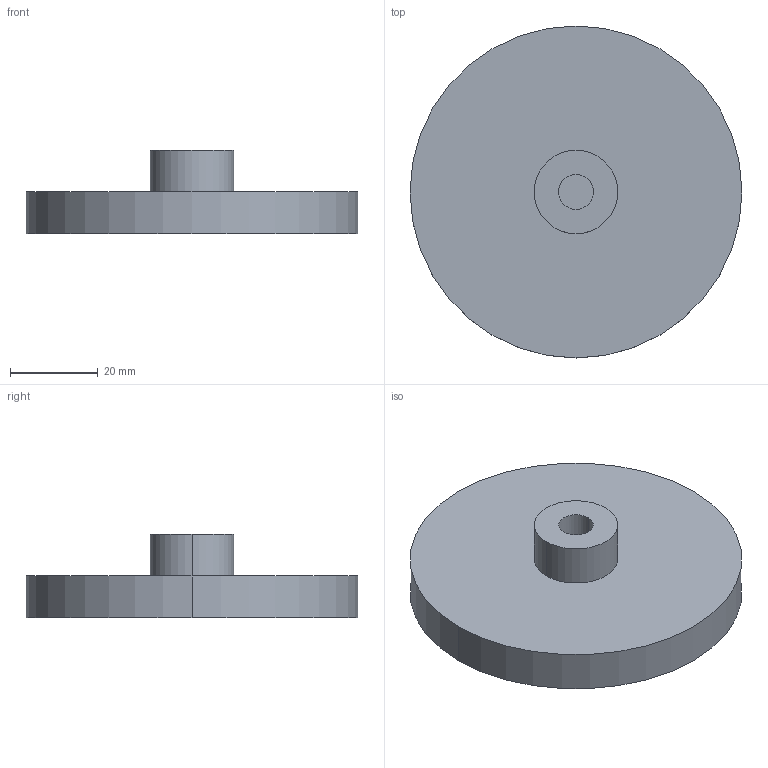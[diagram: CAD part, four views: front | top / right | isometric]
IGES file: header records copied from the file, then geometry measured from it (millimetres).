
Global section: file name: No Iges File Name specified; native system: Autodesk Inventor 2010; preprocessor: AutoDesk Inventor Iges Exporter R2010; author: mlampen; date: 20170420.135504; units: inch
Bounding box: 75.69 x 75.69 x 19.05 mm (x, y, z)
Volume: 44883.8 mm3; surface area: 12182.9 mm2
Topology: 1 solids, 1 shells, 10 faces, 18 edges, 12 vertices
Faces by surface type: cylinder 4, plane 4, revolution 2
